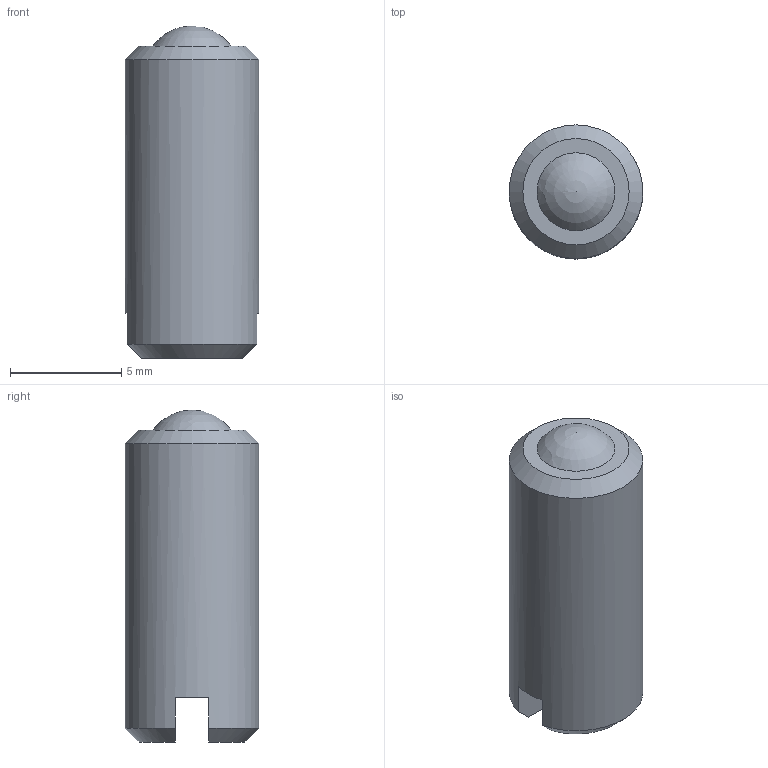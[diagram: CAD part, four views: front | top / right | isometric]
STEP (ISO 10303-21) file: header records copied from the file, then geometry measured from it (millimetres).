
FILE_DESCRIPTION( ( 'STEP AP203' ), '1' );
FILE_NAME( 'C:/Temp/Ganter_Step_05_03_2020/data/3_1/gn615_2/Plastic-Spring plunger GN 615.2-M6-P (deactivated).stp', '2020-03-12T08:38:38', ( 'License CC BY-ND 4.0' ), ( 'CADENAS' ), ' ', 'PARTsolutions', ' ' );
FILE_SCHEMA( ( 'CONFIG_CONTROL_DESIGN' ) );
Length unit declared in the file: millimetre
Products named in the file (1): _Plastic-Spring plunger GN 615.2-M6-P (deactivated)
Bounding box: 6 x 6 x 14.9 mm (x, y, z)
Volume: 376.7 mm3; surface area: 325.9 mm2
Topology: 1 solids, 1 shells, 11 faces, 27 edges, 18 vertices
Faces by surface type: plane 6, cone 3, sphere 1, cylinder 1
Full cylindrical faces by diameter (mm): 6 x1
Entity records: 340 total; most frequent: CARTESIAN_POINT 61, DIRECTION 50, ORIENTED_EDGE 42, AXIS2_PLACEMENT_3D 21, EDGE_CURVE 21, VERTEX_POINT 16, EDGE_LOOP 14, FACE_OUTER_BOUND 12
